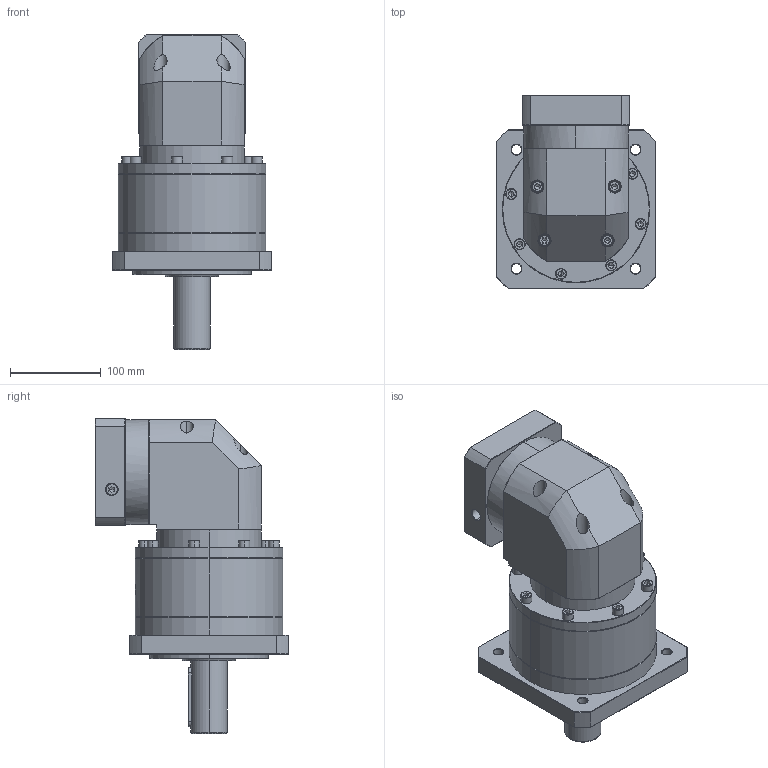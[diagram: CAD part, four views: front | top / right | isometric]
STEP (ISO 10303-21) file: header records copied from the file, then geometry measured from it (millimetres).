
FILE_DESCRIPTION (( 'STEP AP214' ), '1' );
FILE_NAME ('ZFR160A-D40-L2-P2-19-95-115-M6.step', '2023-09-03T09:39:39', ( '' ), ( '' ), 'SwSTEP 2.0', 'SolidWorks 2016', '' );
FILE_SCHEMA (( 'AUTOMOTIVE_DESIGN' ));
Length unit declared in the file: millimetre
Products named in the file (1): ZFR160A-D40-L2-P2-19-95-115-M6
Bounding box: 175 x 212.4 x 346.2 mm (x, y, z)
Volume: 4929962.4 mm3; surface area: 335581.5 mm2
Topology: 6 solids, 6 shells, 2460 faces, 6449 edges, 4115 vertices
Faces by surface type: plane 1145, cylinder 484, bspline 414, cone 371, torus 46
Entity records: 133490 total; most frequent: CARTESIAN_POINT 51129, ORIENTED_EDGE 12790, DIRECTION 9747, EDGE_CURVE 6395, VERTEX_POINT 4115, VECTOR 3423, LINE 3423, AXIS2_PLACEMENT_3D 3162
